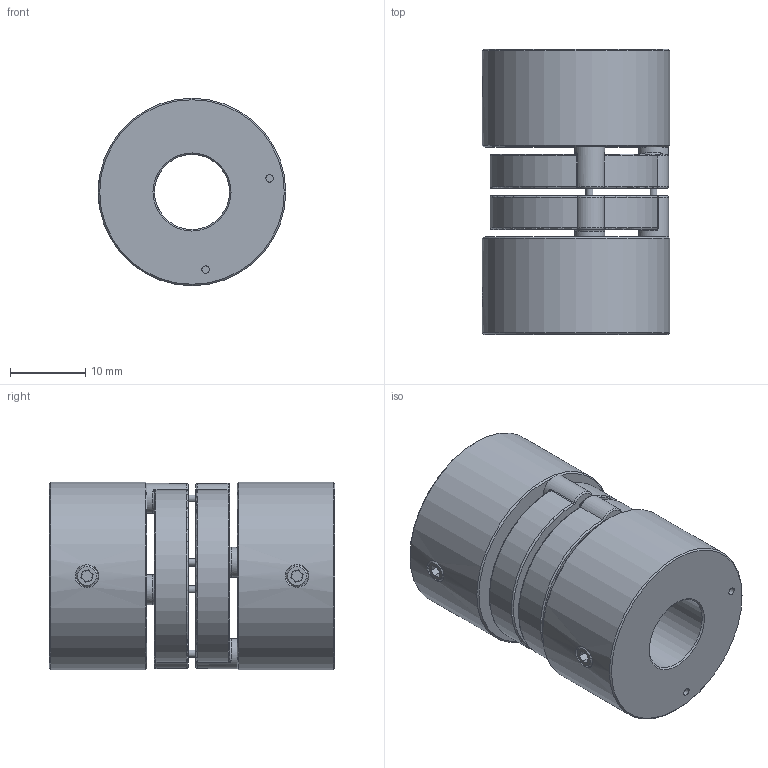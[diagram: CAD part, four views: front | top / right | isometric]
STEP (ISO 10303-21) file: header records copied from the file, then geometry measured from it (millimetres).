
FILE_DESCRIPTION (( 'STEP AP214' ), '1' );
FILE_NAME ('9406_10_10.STEP', '2021-05-03T08:22:15', ( '' ), ( '' ), 'SwSTEP 2.0', 'SolidWorks 2019', '' );
FILE_SCHEMA (( 'AUTOMOTIVE_DESIGN' ));
Length unit declared in the file: millimetre
Products named in the file (4): GIU.9406.E; 9406_10_10; GIU.9406_Grano; GIU.9406.M10
Assembly tree (5 placements, depth 2):
  9406_10_10
    GIU.9406.E
    GIU.9406.M10  x2
    GIU.9406_Grano  x2
Bounding box: 25 x 38 x 25 mm (x, y, z)
Volume: 13528.1 mm3; surface area: 7311.6 mm2
Topology: 10 solids, 10 shells, 167 faces, 359 edges, 218 vertices
Faces by surface type: torus 53, cylinder 50, plane 42, cone 14, bspline 8
Full cylindrical faces by diameter (mm): 1 x16, 2.5 x2, 3 x2, 4 x4, 10 x2, 12 x2, 25 x2
Entity records: 4244 total; most frequent: CARTESIAN_POINT 973, DIRECTION 676, ORIENTED_EDGE 500, AXIS2_PLACEMENT_3D 317, EDGE_CURVE 250, EDGE_LOOP 212, FACE_OUTER_BOUND 180, CIRCLE 174
